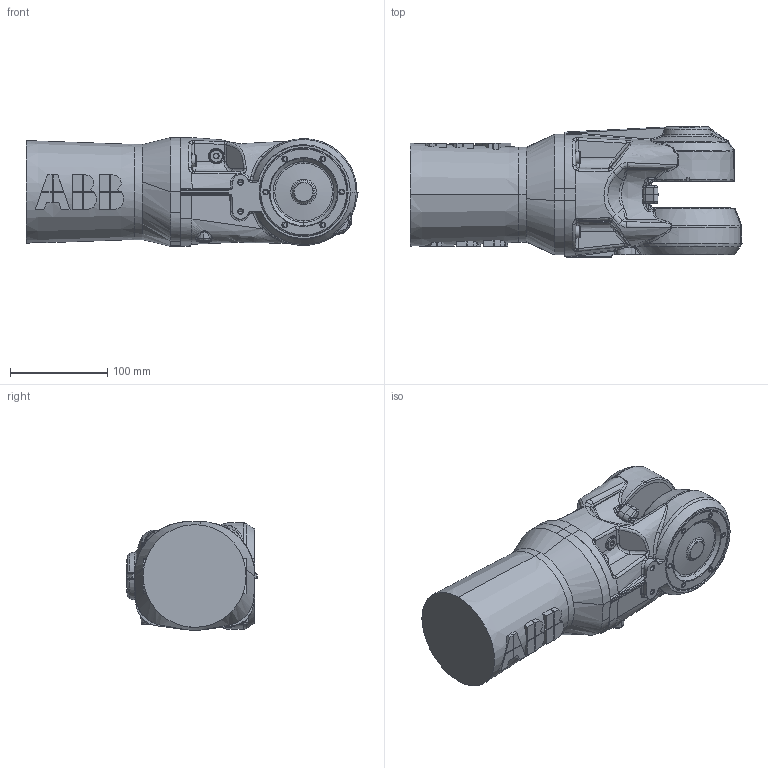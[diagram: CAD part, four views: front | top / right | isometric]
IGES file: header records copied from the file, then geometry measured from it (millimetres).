
Start section: SolidWorks IGES file using analytic representation for surfaces
Global section: file name: C:\Holley\Robot\IRB1600\CAD model\IRB1600_X-145_SW_IRC5_rev02\IRB1600_X-145_SW\IRB1600_X-145_IRC5_rev1_LINK4.IGS; native system: SolidWorks 2020; preprocessor: SolidWorks 2020; author: CNHOCHE3; date: 211129.145122; units: millimetre
Bounding box: 342 x 134.47 x 112 mm (x, y, z)
Volume: 2921341.4 mm3; surface area: 199537.3 mm2
Topology: 12 solids, 12 shells, 1214 faces, 2917 edges, 1755 vertices
Faces by surface type: bspline 490, plane 378, revolution 346
